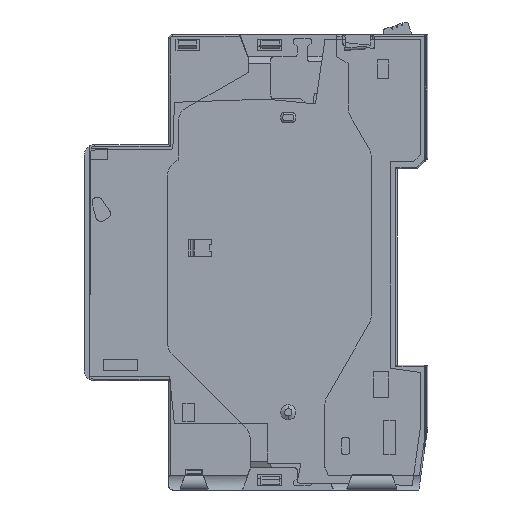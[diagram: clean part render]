
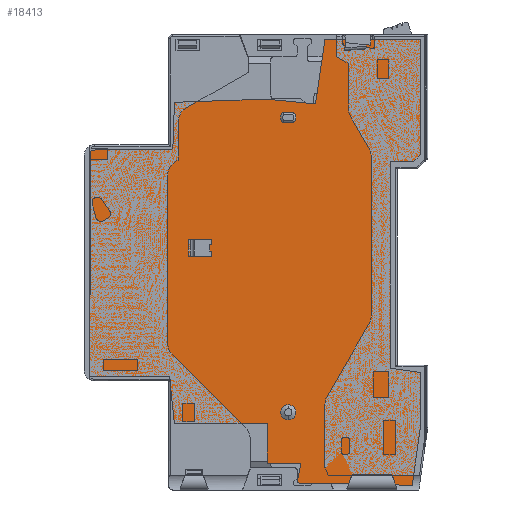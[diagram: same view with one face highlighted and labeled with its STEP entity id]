
A CAD part, front view. The second image highlights one B-rep face of the part: STEP entity #18413.
In plain terms, the highlighted planar face has unit normal (0, -1, 0).
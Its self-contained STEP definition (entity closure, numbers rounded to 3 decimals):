
#13542=DIRECTION('',(-1.,0.,0.));
#13543=VECTOR('',#13542,4.479);
#13544=CARTESIAN_POINT('',(27.879,0.,16.3));
#13545=LINE('',#13544,#13543);
#13546=DIRECTION('',(0.,0.,-1.));
#13547=VECTOR('',#13546,39.4);
#13548=CARTESIAN_POINT('',(23.4,0.,16.3));
#13549=LINE('',#13548,#13547);
#13550=DIRECTION('',(0.991,0.,-0.137));
#13551=VECTOR('',#13550,5.855);
#13552=CARTESIAN_POINT('',(23.4,0.,-23.1));
#13553=LINE('',#13552,#13551);
#13554=DIRECTION('',(0.,0.,-1.));
#13555=VECTOR('',#13554,10.302);
#13556=CARTESIAN_POINT('',(29.2,0.,-23.9));
#13557=LINE('',#13556,#13555);
#13558=DIRECTION('',(0.139,0.,0.99));
#13559=VECTOR('',#13558,11.308);
#13560=CARTESIAN_POINT('',(27.626,0.,-45.4));
#13561=LINE('',#13560,#13559);
#13562=DIRECTION('',(1.,0.,-0.02));
#13563=VECTOR('',#13562,21.957);
#13564=CARTESIAN_POINT('',(5.674,0.,-44.961));
#13565=LINE('',#13564,#13563);
#13566=DIRECTION('',(-0.19,0.,-0.982));
#13567=VECTOR('',#13566,3.831);
#13568=CARTESIAN_POINT('',(6.4,0.,-41.2));
#13569=LINE('',#13568,#13567);
#13570=DIRECTION('',(1.,0.,0.));
#13571=VECTOR('',#13570,6.4);
#13572=CARTESIAN_POINT('',(0.,0.,-41.2));
#13573=LINE('',#13572,#13571);
#13574=DIRECTION('',(0.,0.,-1.));
#13575=VECTOR('',#13574,7.6);
#13576=CARTESIAN_POINT('',(0.,0.,-33.6));
#13577=LINE('',#13576,#13575);
#13578=DIRECTION('',(1.,0.,0.));
#13579=VECTOR('',#13578,17.7);
#13580=CARTESIAN_POINT('',(-17.7,0.,-33.6));
#13581=LINE('',#13580,#13579);
#13582=DIRECTION('',(-0.104,0.,0.995));
#13583=VECTOR('',#13582,9.049);
#13584=CARTESIAN_POINT('',(-17.7,0.,-33.6));
#13585=LINE('',#13584,#13583);
#13586=DIRECTION('',(-1.,0.,0.));
#13587=VECTOR('',#13586,15.256);
#13588=CARTESIAN_POINT('',(-18.644,0.,-24.6));
#13589=LINE('',#13588,#13587);
#13590=DIRECTION('',(-0.007,0.,-1.));
#13591=VECTOR('',#13590,43.101);
#13592=CARTESIAN_POINT('',(-33.6,0.,18.5));
#13593=LINE('',#13592,#13591);
#13594=DIRECTION('',(1.,0.,0.013));
#13595=VECTOR('',#13594,15.601);
#13596=CARTESIAN_POINT('',(-33.6,0.,18.5));
#13597=LINE('',#13596,#13595);
#13598=DIRECTION('',(0.034,0.,0.999));
#13599=VECTOR('',#13598,8.905);
#13600=CARTESIAN_POINT('',(-18.,0.,18.7));
#13601=LINE('',#13600,#13599);
#13602=DIRECTION('',(-0.999,0.,-0.034));
#13603=VECTOR('',#13602,17.51);
#13604=CARTESIAN_POINT('',(-0.2,0.,28.2));
#13605=LINE('',#13604,#13603);
#13606=DIRECTION('',(-0.995,0.,0.095));
#13607=VECTOR('',#13606,9.443);
#13608=CARTESIAN_POINT('',(9.2,0.,27.3));
#13609=LINE('',#13608,#13607);
#13610=DIRECTION('',(-0.144,0.,-0.99));
#13611=VECTOR('',#13610,12.43);
#13612=CARTESIAN_POINT('',(10.99,0.,39.6));
#13613=LINE('',#13612,#13611);
#13614=DIRECTION('',(-1.,0.,0.));
#13615=VECTOR('',#13614,18.21);
#13616=CARTESIAN_POINT('',(29.2,0.,39.6));
#13617=LINE('',#13616,#13615);
#13618=DIRECTION('',(0.,0.,-1.));
#13619=VECTOR('',#13618,21.979);
#13620=CARTESIAN_POINT('',(29.2,0.,39.6));
#13621=LINE('',#13620,#13619);
#13622=DIRECTION('',(-0.707,0.,-0.707));
#13623=VECTOR('',#13622,1.869);
#13624=CARTESIAN_POINT('',(29.2,0.,17.621));
#13625=LINE('',#13624,#13623);
#14407=CARTESIAN_POINT('',(23.4,0.,16.3));
#14408=CARTESIAN_POINT('',(27.879,0.,16.3));
#14409=VERTEX_POINT('',#14407);
#14410=VERTEX_POINT('',#14408);
#14411=CARTESIAN_POINT('',(29.2,0.,17.621));
#14412=VERTEX_POINT('',#14411);
#14413=CARTESIAN_POINT('',(29.2,0.,39.6));
#14414=VERTEX_POINT('',#14413);
#14415=CARTESIAN_POINT('',(10.99,0.,39.6));
#14416=VERTEX_POINT('',#14415);
#14417=CARTESIAN_POINT('',(9.2,0.,27.3));
#14418=VERTEX_POINT('',#14417);
#14419=CARTESIAN_POINT('',(-0.2,0.,28.2));
#14420=VERTEX_POINT('',#14419);
#14421=CARTESIAN_POINT('',(-17.7,0.,27.6));
#14422=VERTEX_POINT('',#14421);
#14423=CARTESIAN_POINT('',(-18.,0.,18.7));
#14424=VERTEX_POINT('',#14423);
#14425=CARTESIAN_POINT('',(-33.6,0.,18.5));
#14426=VERTEX_POINT('',#14425);
#14427=CARTESIAN_POINT('',(-33.9,0.,-24.6));
#14428=VERTEX_POINT('',#14427);
#14429=CARTESIAN_POINT('',(-18.644,0.,-24.6));
#14430=VERTEX_POINT('',#14429);
#14431=CARTESIAN_POINT('',(-17.7,0.,-33.6));
#14432=VERTEX_POINT('',#14431);
#14433=CARTESIAN_POINT('',(0.,0.,-33.6));
#14434=VERTEX_POINT('',#14433);
#14435=CARTESIAN_POINT('',(0.,0.,-41.2));
#14436=VERTEX_POINT('',#14435);
#14437=CARTESIAN_POINT('',(6.4,0.,-41.2));
#14438=VERTEX_POINT('',#14437);
#14439=CARTESIAN_POINT('',(5.674,0.,-44.961));
#14440=VERTEX_POINT('',#14439);
#14441=CARTESIAN_POINT('',(27.626,0.,-45.4));
#14442=VERTEX_POINT('',#14441);
#14443=CARTESIAN_POINT('',(29.2,0.,-34.202));
#14444=VERTEX_POINT('',#14443);
#14445=CARTESIAN_POINT('',(29.2,0.,-23.9));
#14446=VERTEX_POINT('',#14445);
#14447=CARTESIAN_POINT('',(23.4,0.,-23.1));
#14448=VERTEX_POINT('',#14447);
#18375=CARTESIAN_POINT('',(0.,0.,0.));
#18376=DIRECTION('',(0.,-1.,0.));
#18377=DIRECTION('',(0.,0.,1.));
#18378=AXIS2_PLACEMENT_3D('',#18375,#18376,#18377);
#18379=PLANE('',#18378);
#18381=ORIENTED_EDGE('',*,*,#18380,.T.);
#18383=ORIENTED_EDGE('',*,*,#18382,.T.);
#18385=ORIENTED_EDGE('',*,*,#18384,.T.);
#18387=ORIENTED_EDGE('',*,*,#18386,.T.);
#18388=ORIENTED_EDGE('',*,*,#18368,.F.);
#18389=ORIENTED_EDGE('',*,*,#18351,.F.);
#18390=ORIENTED_EDGE('',*,*,#18314,.F.);
#18391=ORIENTED_EDGE('',*,*,#18299,.F.);
#18392=ORIENTED_EDGE('',*,*,#18278,.F.);
#18393=ORIENTED_EDGE('',*,*,#18254,.F.);
#18395=ORIENTED_EDGE('',*,*,#18394,.T.);
#18397=ORIENTED_EDGE('',*,*,#18396,.T.);
#18398=ORIENTED_EDGE('',*,*,#18156,.F.);
#18400=ORIENTED_EDGE('',*,*,#18399,.T.);
#18402=ORIENTED_EDGE('',*,*,#18401,.T.);
#18403=ORIENTED_EDGE('',*,*,#18106,.F.);
#18404=ORIENTED_EDGE('',*,*,#18010,.F.);
#18405=ORIENTED_EDGE('',*,*,#17989,.F.);
#18406=ORIENTED_EDGE('',*,*,#17973,.F.);
#18408=ORIENTED_EDGE('',*,*,#18407,.T.);
#18410=ORIENTED_EDGE('',*,*,#18409,.T.);
#18411=EDGE_LOOP('',(#18381,#18383,#18385,#18387,#18388,#18389,#18390,#18391,
#18392,#18393,#18395,#18397,#18398,#18400,#18402,#18403,#18404,#18405,#18406,
#18408,#18410));
#18412=FACE_OUTER_BOUND('',#18411,.F.);
#18413=ADVANCED_FACE('',(#18412),#18379,.T.);
#17973=EDGE_CURVE('',#14414,#14416,#13617,.T.);
#17989=EDGE_CURVE('',#14416,#14418,#13613,.T.);
#18010=EDGE_CURVE('',#14418,#14420,#13609,.T.);
#18106=EDGE_CURVE('',#14420,#14422,#13605,.T.);
#18156=EDGE_CURVE('',#14426,#14428,#13593,.T.);
#18254=EDGE_CURVE('',#14432,#14434,#13581,.T.);
#18278=EDGE_CURVE('',#14434,#14436,#13577,.T.);
#18299=EDGE_CURVE('',#14436,#14438,#13573,.T.);
#18314=EDGE_CURVE('',#14438,#14440,#13569,.T.);
#18351=EDGE_CURVE('',#14440,#14442,#13565,.T.);
#18368=EDGE_CURVE('',#14442,#14444,#13561,.T.);
#18380=EDGE_CURVE('',#14410,#14409,#13545,.T.);
#18382=EDGE_CURVE('',#14409,#14448,#13549,.T.);
#18384=EDGE_CURVE('',#14448,#14446,#13553,.T.);
#18386=EDGE_CURVE('',#14446,#14444,#13557,.T.);
#18394=EDGE_CURVE('',#14432,#14430,#13585,.T.);
#18396=EDGE_CURVE('',#14430,#14428,#13589,.T.);
#18399=EDGE_CURVE('',#14426,#14424,#13597,.T.);
#18401=EDGE_CURVE('',#14424,#14422,#13601,.T.);
#18407=EDGE_CURVE('',#14414,#14412,#13621,.T.);
#18409=EDGE_CURVE('',#14412,#14410,#13625,.T.);
